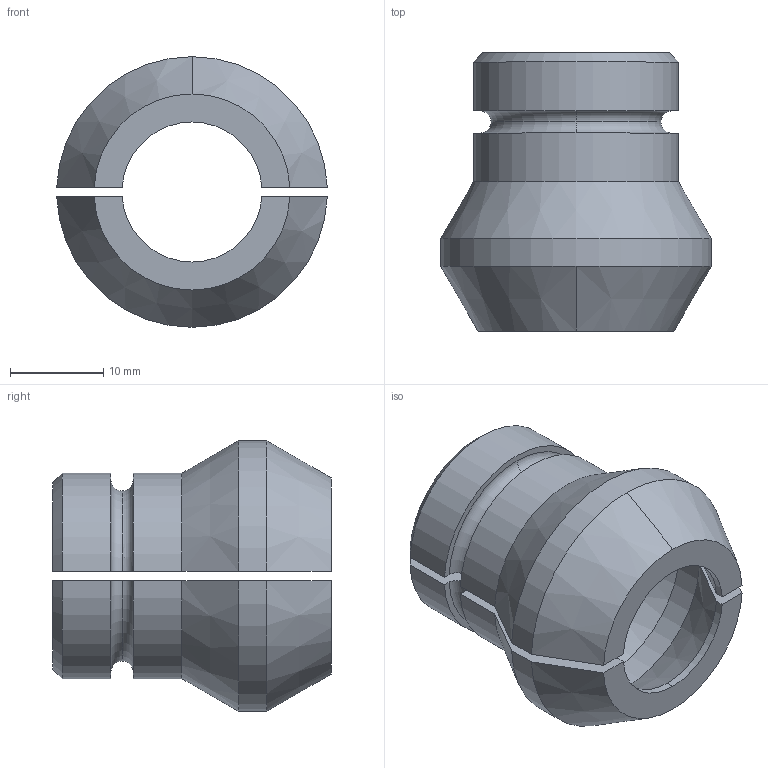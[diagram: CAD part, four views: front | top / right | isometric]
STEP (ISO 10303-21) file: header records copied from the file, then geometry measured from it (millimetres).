
FILE_DESCRIPTION (( 'STEP AP203' ), '1' );
FILE_NAME ('Barrel Sleeve 3-D Print Optimized.STEP', '2020-08-07T04:30:25', ( '' ), ( '' ), 'SwSTEP 2.0', 'SolidWorks 2017', '' );
FILE_SCHEMA (( 'CONFIG_CONTROL_DESIGN' ));
Length unit declared in the file: millimetre
Products named in the file (1): Barrel Sleeve 3-D Print Optimized
Bounding box: 28.98 x 29.83 x 29 mm (x, y, z)
Volume: 6268.6 mm3; surface area: 4872.5 mm2
Topology: 2 solids, 2 shells, 51 faces, 135 edges, 88 vertices
Faces by surface type: cylinder 18, cone 15, plane 12, torus 6
Entity records: 1754 total; most frequent: CARTESIAN_POINT 413, ORIENTED_EDGE 270, DIRECTION 267, EDGE_CURVE 135, AXIS2_PLACEMENT_3D 108, VERTEX_POINT 88, CIRCLE 56, VECTOR 51
